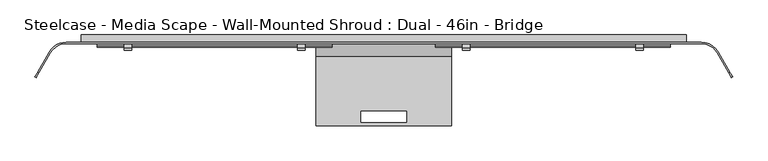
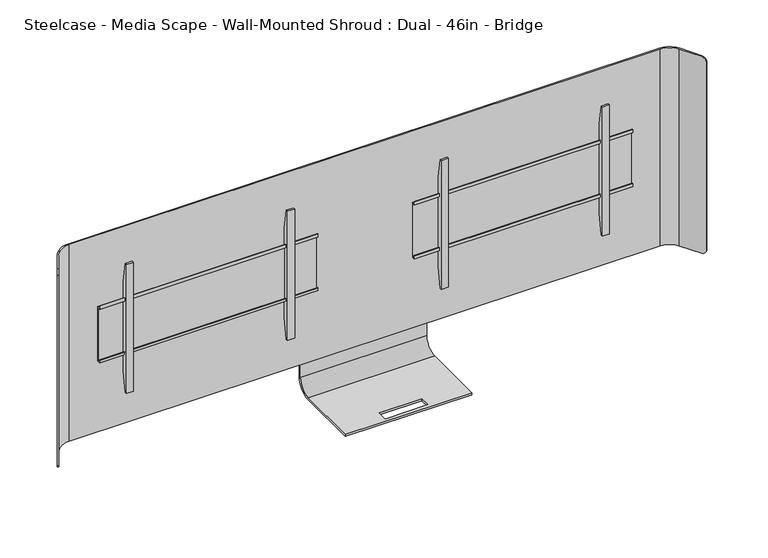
"""IFC4 building model written with IfcOpenShell, lengths in millimetres: furniture geometry, Steelcase - Media Scape - Wall-Mounted Shroud : Dual - 46in - Bridge."""

import ifcopenshell
import ifcopenshell.guid

model = None  # the IFC model being written
_history = None  # IfcOwnerHistory: only IFC2X3 demands one
_inside = {}  # id of a spatial element -> (the spatial element, [elements in it])
_under = {}  # id of a project, library or spatial element -> (it, [spatial elements below it])
_declared = {}  # id of a project -> (the project, [libraries it declares])
_typed = {}  # id of a type object -> (the type object, [elements of that type])
_made_of = {}  # id of a material, layer set ... -> (it, [elements and type objects made of it])


def new_model(schema):
    """Start an empty IFC model of exactly this schema.

    Asked for "IFC4X3", IfcOpenShell would pick the latest addendum, in which some entities
    have other attributes; the version numbers below select the first issue.
    IFC2X3 requires an IfcOwnerHistory on every rooted entity: one is made here for all.
    """
    global model, _history
    if schema == "IFC4X3":
        model = ifcopenshell.file(schema_version=(4, 3, 0, 0))
    else:
        model = ifcopenshell.file(schema=schema)
    _inside.clear()
    _under.clear()
    _declared.clear()
    _typed.clear()
    _made_of.clear()
    _history = None
    if model.schema == "IFC2X3":
        org = make("IfcOrganization", Name="unknown")
        user = make(
            "IfcPersonAndOrganization",
            ThePerson=make("IfcPerson", FamilyName="unknown"),
            TheOrganization=org,
        )
        app = make(
            "IfcApplication",
            ApplicationDeveloper=org,
            Version="unknown",
            ApplicationFullName="unknown",
            ApplicationIdentifier="unknown",
        )
        _history = make(
            "IfcOwnerHistory",
            OwningUser=user,
            OwningApplication=app,
            ChangeAction="ADDED",
            CreationDate=0,
        )
    return model


def make(cls, **values):
    """One entity of the class cls with the attributes given. An attribute that is None is left unset."""
    return model.create_entity(
        cls, **{name: value for name, value in values.items() if value is not None}
    )


def rooted(cls, **values):
    """An entity with a GlobalId (a new one), such as an element, a storey or a relation."""
    return make(cls, GlobalId=ifcopenshell.guid.new(), OwnerHistory=_history, **values)


def si_unit(unit_type, name, prefix=None):
    """IfcSIUnit, for example si_unit("LENGTHUNIT", "METRE", prefix="MILLI")."""
    return make("IfcSIUnit", UnitType=unit_type, Prefix=prefix, Name=name)


def assignment(units):
    """IfcUnitAssignment: the units of a project."""
    return None if units is None else make("IfcUnitAssignment", Units=units)


def point(xyz):
    """IfcCartesianPoint."""
    return None if xyz is None else make("IfcCartesianPoint", Coordinates=xyz)


def direction(xyz):
    """IfcDirection."""
    return None if xyz is None else make("IfcDirection", DirectionRatios=xyz)


def frame(location, z_axis=None, x_axis=None):
    """IfcAxis2Placement3D, a coordinate frame: its origin and axes. An axis left out is left unset."""
    return make(
        "IfcAxis2Placement3D",
        Location=point(location),
        Axis=direction(z_axis),
        RefDirection=direction(x_axis),
    )


def origin():
    """The frame at (0, 0, 0) with its axes left unset."""
    return frame((0.0, 0.0, 0.0))


def place(relative_to, where):
    """IfcLocalPlacement: puts the frame where relative to a parent placement (None: the world)."""
    return make(
        "IfcLocalPlacement", PlacementRelTo=relative_to, RelativePlacement=where
    )


def context(
    kind, dimensions, precision=None, world=None, true_north=None, identifier=None
):
    """IfcGeometricRepresentationContext, for example the 3D "Model" context."""
    return make(
        "IfcGeometricRepresentationContext",
        ContextIdentifier=identifier,
        ContextType=kind,
        CoordinateSpaceDimension=dimensions,
        Precision=precision,
        WorldCoordinateSystem=world,
        TrueNorth=true_north,
    )


def project(units=None, contexts=None):
    """IfcProject with its units and contexts."""
    return rooted(
        "IfcProject",
        Name="project",
        RepresentationContexts=contexts,
        UnitsInContext=assignment(units),
    )


def spatial(cls, under=None, at=None, **own):
    """A site, building, storey or space (cls), placed at a placement, below another one or the project."""
    s = rooted(cls, ObjectPlacement=at, **own)
    if under is not None:
        _under.setdefault(under.id(), (under, []))[1].append(s)
    return s


def polyline(points):
    """IfcPolyline through the points."""
    return make("IfcPolyline", Points=[point(p) for p in points])


def circle_curve(where, radius):
    """IfcCircle in the frame where."""
    return make("IfcCircle", Position=where, Radius=radius)


def outline(outer, holes=None, kind="AREA"):
    """IfcArbitraryClosedProfileDef: a profile drawn as a closed curve; with holes, ...WithVoids."""
    if holes is None:
        return make("IfcArbitraryClosedProfileDef", ProfileType=kind, OuterCurve=outer)
    return make(
        "IfcArbitraryProfileDefWithVoids",
        ProfileType=kind,
        OuterCurve=outer,
        InnerCurves=holes,
    )


def extrude(swept, where, along, depth):
    """IfcExtrudedAreaSolid: the profile swept, set in the frame where, extruded along a direction by depth."""
    return make(
        "IfcExtrudedAreaSolid",
        SweptArea=swept,
        Position=where,
        ExtrudedDirection=direction(along),
        Depth=depth,
    )


def shape(context_of_items, identifier, shape_type, items):
    """IfcShapeRepresentation: the items that make up one representation, for example the "Body"."""
    return make(
        "IfcShapeRepresentation",
        ContextOfItems=context_of_items,
        RepresentationIdentifier=identifier,
        RepresentationType=shape_type,
        Items=items,
    )


def source(mapping_origin, context_of_items, identifier, shape_type, items):
    """IfcRepresentationMap: a shape defined once, which mapped items show again and again."""
    return make(
        "IfcRepresentationMap",
        MappingOrigin=mapping_origin,
        MappedRepresentation=shape(context_of_items, identifier, shape_type, items),
    )


def transform(
    local_origin,
    x_axis=None,
    y_axis=None,
    z_axis=None,
    scale=None,
    scale2=None,
    scale3=None,
    uniform=True,
):
    """IfcCartesianTransformationOperator3D, or its non-uniform kind. x_axis, y_axis, z_axis: its Axis1, 2, 3."""
    if uniform:
        return make(
            "IfcCartesianTransformationOperator3D",
            Axis1=direction(x_axis),
            Axis2=direction(y_axis),
            LocalOrigin=point(local_origin),
            Scale=scale,
            Axis3=direction(z_axis),
        )
    return make(
        "IfcCartesianTransformationOperator3DnonUniform",
        Axis1=direction(x_axis),
        Axis2=direction(y_axis),
        LocalOrigin=point(local_origin),
        Scale=scale,
        Axis3=direction(z_axis),
        Scale2=scale2,
        Scale3=scale3,
    )


def mapped(mapping_source, mapping_target):
    """IfcMappedItem: shows the shape of a source again, moved by a transform."""
    return make(
        "IfcMappedItem", MappingSource=mapping_source, MappingTarget=mapping_target
    )


def made_of(thing, what):
    """Note that an element or type object is made of a material, layer set ...; save() writes the relation."""
    if what is not None:
        _made_of.setdefault(what.id(), (what, []))[1].append(thing)
    return thing


def element(
    cls,
    number,
    at=None,
    inside=None,
    cuts=None,
    type_object=None,
    material=None,
    context=None,
    identifier="Body",
    shape_type=None,
    held_by="IfcProductDefinitionShape",
    body=None,
    shapes=None,
    **own,
):
    """One element of the class cls, such as IfcWall. Its Tag is "e" and its number.

    at: its placement. inside: the storey or other place that contains it. cuts: it is an
    opening in that element (IfcRelVoidsElement). A single representation is given by context,
    identifier, shape_type and body (its items); several are given by shapes. held_by: the class
    of the entity that holds the representations. save() writes the other relations.
    """
    e = rooted(cls, Tag="e%d" % number, ObjectPlacement=at, **own)
    if body is not None:
        shapes = [shape(context, identifier, shape_type, body)]
    if shapes is not None:
        e.Representation = make(held_by, Representations=shapes)
    if inside is not None:
        _inside.setdefault(inside.id(), (inside, []))[1].append(e)
    if cuts is not None:
        rooted(
            "IfcRelVoidsElement", RelatingBuildingElement=cuts, RelatedOpeningElement=e
        )
    if type_object is not None:
        _typed.setdefault(type_object.id(), (type_object, []))[1].append(e)
    return made_of(e, material)


def aggregate(whole, parts):
    """IfcRelAggregates: a whole, such as a stair, and the parts it consists of."""
    return rooted("IfcRelAggregates", RelatingObject=whole, RelatedObjects=parts)


def save(model, path):
    """Write the relations noted so far, then the file.

    IfcRelAggregates (storeys below a building ...), IfcRelContainedInSpatialStructure (elements
    in a storey), IfcRelDefinesByType, IfcRelAssociatesMaterial and IfcRelDeclares: one each for
    every whole, place, type object, material and project.
    """
    for whole, parts in _under.values():
        aggregate(whole, parts)
    for where, things in _inside.values():
        rooted(
            "IfcRelContainedInSpatialStructure",
            RelatedElements=things,
            RelatingStructure=where,
        )
    for kind, things in _typed.values():
        rooted("IfcRelDefinesByType", RelatedObjects=things, RelatingType=kind)
    for what, things in _made_of.values():
        rooted("IfcRelAssociatesMaterial", RelatedObjects=things, RelatingMaterial=what)
    for by, libraries in _declared.values():
        rooted("IfcRelDeclares", RelatingContext=by, RelatedDefinitions=libraries)
    model.write(path)


def plane_surface(at):
    """IfcPlane: the flat surface through the origin of the frame at, square to its z axis."""
    return make("IfcPlane", Position=at)


def cylinder_surface(at, radius):
    """IfcCylindricalSurface: all points at the distance radius from the z axis of the frame at."""
    return make("IfcCylindricalSurface", Position=at, Radius=radius)


def revolved_surface(curve, axis_point, axis_direction):
    """IfcSurfaceOfRevolution: the curve turned about the line through axis_point along axis_direction."""
    return make(
        "IfcSurfaceOfRevolution",
        SweptCurve=make("IfcArbitraryOpenProfileDef", ProfileType="CURVE", Curve=curve),
        AxisPosition=make("IfcAxis1Placement", Location=point(axis_point), Axis=direction(axis_direction)),
    )


def advanced_brep(points, edges, surfaces, faces):
    """IfcAdvancedBrep: a solid bounded by faces that lie on surfaces and meet in shared edges.

    An edge is (start, end): straight between two places in points (the first is 0);
    or (start, end, curve); or (start, end, curve, False) where it runs against its curve.
    A face is (place in surfaces, loops), or (place, loops, False) where it looks against
    its surface's normal. A loop lists edges by number (the first is 1), with a minus sign
    where the edge is run from its end to its start. The first loop is the outer one.
    """
    corners = [point(p) for p in points]
    vertices = [make("IfcVertexPoint", VertexGeometry=c) for c in corners]
    made = []
    for start, end, *more in edges:
        made.append(
            make(
                "IfcEdgeCurve",
                EdgeStart=vertices[start],
                EdgeEnd=vertices[end],
                EdgeGeometry=more[0] if more else make("IfcPolyline", Points=[corners[start], corners[end]]),
                SameSense=more[1] if len(more) > 1 else True,
            )
        )
    hull = []
    for where, loops, *sense in faces:
        bounds = []
        for j, loop in enumerate(loops):
            ring = [make("IfcOrientedEdge", EdgeElement=made[abs(k) - 1], Orientation=k > 0) for k in loop]
            bounds.append(
                make(
                    "IfcFaceOuterBound" if j == 0 else "IfcFaceBound",
                    Bound=make("IfcEdgeLoop", EdgeList=ring),
                    Orientation=True,
                )
            )
        hull.append(make("IfcAdvancedFace", Bounds=bounds, FaceSurface=surfaces[where], SameSense=sense[0] if sense else True))
    return make("IfcAdvancedBrep", Outer=make("IfcClosedShell", CfsFaces=hull))


def steelcase_media_scape_wall_mounted_shroud_dual_46in_bridge_60c83677(model_context):
    return source(origin(), model_context, "Body", "SolidModel", [
        extrude(outline(polyline([(-42.4942785, 1326.5504726), (-42.4942785, 1338.5645649), (-39.8272175, 1338.5645649), (-39.8272175, 1329.217461), (-29.9720009, 1329.217461), (-29.9720009, 1114.8922438), (-42.3164551, 1114.8922438), (-42.3164551, 1125.8142515), (-39.649394, 1125.8142515), (-39.649394, 1117.557052), (-32.6531824, 1117.557052), (-32.6531824, 1326.5504726), (-42.4942785, 1326.5504726)])), frame((179.451, 0.0, 0.0), z_axis=(1.0, 0.0, 0.0), x_axis=(0.0, 1.0, 0.0)), (0.0, 0.0, 1.0), 812.8),
        extrude(outline(polyline([(-32.6531824, 1397.4971148), (-32.6531824, 1045.6825607), (-46.5049349, 968.0546949), (-53.3399828, 968.0546949), (-53.3399828, 1476.0547192), (-46.5050076, 1476.0547192), (-32.6531824, 1397.4971148)])), frame((273.052426, 0.0, 0.0), z_axis=(1.0, 0.0, 0.0), x_axis=(0.0, 1.0, 0.0)), (0.0, 0.0, 1.0), 26.1592872),
        extrude(outline(polyline([(-32.6531824, 1397.4971148), (-32.6531824, 1045.6825607), (-46.5049349, 968.0546949), (-53.3399828, 968.0546949), (-53.3399828, 1476.0547192), (-46.5050076, 1476.0547192), (-32.6531824, 1397.4971148)])), frame((872.4902868, 0.0, 0.0), z_axis=(1.0, 0.0, 0.0), x_axis=(0.0, 1.0, 0.0)), (0.0, 0.0, 1.0), 26.1592872),
        extrude(outline(polyline([(-42.4942785, 1326.5504726), (-42.4942785, 1338.5645649), (-39.8272175, 1338.5645649), (-39.8272175, 1329.217461), (-29.9720009, 1329.217461), (-29.9720009, 1114.8922438), (-42.3164551, 1114.8922438), (-42.3164551, 1125.8142515), (-39.649394, 1125.8142515), (-39.649394, 1117.557052), (-32.6531824, 1117.557052), (-32.6531824, 1326.5504726), (-42.4942785, 1326.5504726)])), frame((-992.251, 0.0, 0.0), z_axis=(1.0, 0.0, 0.0), x_axis=(0.0, 1.0, 0.0)), (0.0, 0.0, 1.0), 812.8),
        extrude(outline(polyline([(-32.6531824, 1397.4971148), (-32.6531824, 1045.6825607), (-46.5049349, 968.0546949), (-53.3399828, 968.0546949), (-53.3399828, 1476.0547192), (-46.5050076, 1476.0547192), (-32.6531824, 1397.4971148)])), frame((-299.2117132, 0.0, 0.0), z_axis=(1.0, 0.0, 0.0), x_axis=(0.0, 1.0, 0.0)), (0.0, 0.0, 1.0), 26.1592872),
        extrude(outline(polyline([(-32.6531824, 1397.4971148), (-32.6531824, 1045.6825607), (-46.5049349, 968.0546949), (-53.3399828, 968.0546949), (-53.3399828, 1476.0547192), (-46.5050076, 1476.0547192), (-32.6531824, 1397.4971148)])), frame((-898.649574, 0.0, 0.0), z_axis=(1.0, 0.0, 0.0), x_axis=(0.0, 1.0, 0.0)), (0.0, 0.0, 1.0), 26.1592872),
        advanced_brep(
        [(234.9499879, -25.4, 783.5646188), (234.9499879, -75.8697585, 733.0948603), (234.9499879, -314.3253876, 733.0948603), (234.9499879, -314.3253876, 725.1446188), (234.9499879, -75.8696132, 725.1446188), (234.9499879, -17.4496132, 783.5646188), (234.9499879, -17.4496132, 1126.7947876), (234.9499879, -25.4, 1126.7947876), (-234.9499879, -25.4, 783.5646188), (-234.9499879, -25.4, 1126.7947876), (-234.9499879, -17.4496132, 1126.7947876), (-234.9499879, -17.4496132, 783.5646188), (-234.9499879, -75.8696132, 725.1446188), (-234.9499879, -314.3253876, 725.1446188), (-234.9499879, -314.3253876, 733.0948603), (-234.9499879, -75.8697585, 733.0948603), (-79.502, -263.5253876, 733.0948603), (79.502, -263.5253876, 733.0948603), (79.502, -301.6253876, 733.0948603), (-79.502, -301.6253876, 733.0948603), (79.502, -263.5253876, 725.1446188), (-79.502, -263.5253876, 725.1446188), (-79.502, -301.6253876, 725.1446188), (79.502, -301.6253876, 725.1446188)],
        [
            (0, 1, circle_curve(frame((234.9499879, -75.8697585, 783.5646188), z_axis=(-1.0, 0.0, 0.0), x_axis=(0.0, 1.0, 0.0)), 50.4697585)),
            (1, 2),
            (2, 3),
            (3, 4),
            (4, 5, circle_curve(frame((234.9499879, -75.8696132, 783.5646188), z_axis=(1.0, 0.0, 0.0), x_axis=(0.0, 1.0, 0.0)), 58.42)),
            (5, 6),
            (6, 7),
            (7, 0),
            (8, 9),
            (9, 10),
            (10, 11),
            (11, 12, circle_curve(frame((-234.9499879, -75.8696132, 783.5646188), z_axis=(-1.0, 0.0, 0.0), x_axis=(0.0, 1.0, 0.0)), 58.42)),
            (12, 13),
            (13, 14),
            (14, 15),
            (15, 8, circle_curve(frame((-234.9499879, -75.8697585, 783.5646188), z_axis=(1.0, 0.0, 0.0), x_axis=(0.0, 1.0, 0.0)), 50.4697585)),
            (1, 15),
            (14, 2),
            (16, 17),
            (17, 18),
            (18, 19),
            (19, 16),
            (13, 3),
            (12, 4),
            (20, 21),
            (21, 22),
            (22, 23),
            (23, 20),
            (5, 11),
            (10, 6),
            (9, 7),
            (8, 0),
            (20, 17),
            (16, 21),
            (19, 22),
            (18, 23),
        ],
        [
            plane_surface(frame((234.9499879, -25.4, 783.5646188), z_axis=(1.0, 0.0, 0.0), x_axis=(0.0, 0.0, -1.0))),
            plane_surface(frame((-234.9499879, -25.4, 783.5646188), z_axis=(-1.0, 0.0, 0.0), x_axis=(0.0, 0.0, 1.0))),
            plane_surface(frame((234.9499879, -75.8697585, 733.0948603), z_axis=(0.0, 0.0, 1.0), x_axis=(-1.0, 0.0, 0.0))),
            plane_surface(frame((234.9499879, -314.3253876, 733.0948603), z_axis=(0.0, -1.0, 0.0), x_axis=(-1.0, 0.0, 0.0))),
            plane_surface(frame((234.9499879, -314.3253876, 725.1446188), z_axis=(0.0, 0.0, -1.0), x_axis=(-1.0, 0.0, 0.0))),
            plane_surface(frame((234.9499879, -17.4496132, 783.5646188), z_axis=(0.0, 1.0, 0.0), x_axis=(-1.0, 0.0, 0.0))),
            plane_surface(frame((234.9499879, -17.4496132, 1126.7947876), z_axis=(0.0, 0.0, 1.0), x_axis=(-1.0, 0.0, 0.0))),
            plane_surface(frame((234.9499879, -25.4, 1126.7947876), z_axis=(0.0, -1.0, 0.0), x_axis=(-1.0, 0.0, 0.0))),
            revolved_surface(polyline([(-234.9499879, -25.400000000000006, 783.5646188), (234.9499879, -25.400000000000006, 783.5646188)]), (-234.9499879, -75.8697585, 783.5646188), (-1.0, 0.0, 0.0)),
            cylinder_surface(frame((-234.9499879, -75.8696132, 783.5646188), z_axis=(1.0, 0.0, 0.0), x_axis=(0.0, 1.0, 0.0)), 58.42),
            plane_surface(frame((79.502, -263.5253876, 1824.7300588), z_axis=(0.0, -1.0, 0.0), x_axis=(0.0, 0.0, -1.0))),
            plane_surface(frame((-79.502, -263.5253876, 1824.7300588), z_axis=(1.0, 0.0, 0.0), x_axis=(0.0, 0.0, -1.0))),
            plane_surface(frame((-79.502, -301.6253876, 1824.7300588), z_axis=(0.0, 1.0, 0.0), x_axis=(0.0, 0.0, -1.0))),
            plane_surface(frame((79.502, -301.6253876, 1824.7300588), z_axis=(-1.0, 0.0, 0.0), x_axis=(0.0, 0.0, -1.0))),
        ],
        [
            (0, [[1, 2, 3, 4, 5, 6, 7, 8]]),
            (1, [[9, 10, 11, 12, 13, 14, 15, 16]]),
            (2, [[-2, 17, -15, 18], [19, 20, 21, 22]]),
            (3, [[-3, -18, -14, 23]]),
            (4, [[-4, -23, -13, 24], [25, 26, 27, 28]]),
            (5, [[-6, 29, -11, 30]]),
            (6, [[-7, -30, -10, 31]]),
            (7, [[-8, -31, -9, 32]]),
            (8, [[-1, -32, -16, -17]]),
            (9, [[-5, -24, -12, -29]]),
            (10, [[33, -19, 34, -25]]),
            (11, [[-34, -22, 35, -26]]),
            (12, [[-35, -21, 36, -27]]),
            (13, [[-33, -28, -36, -20]]),
        ],
    ),
        advanced_brep(
        [(-1154.5586135, -61.722, 1610.614), (-1099.566002, -29.9720009, 1610.614), (1099.566, -29.9720009, 1610.614), (1154.5586135, -61.722, 1610.614), (1194.679586, -131.2135628, 1610.614), (1198.6390541, -128.9275628, 1610.614), (1158.5180817, -59.436, 1610.614), (1099.566002, -25.4, 1610.614), (-1099.566, -25.4, 1610.614), (-1158.5180817, -59.436, 1610.614), (-1198.6421659, -128.9329524, 1610.614), (-1194.6826977, -131.2189524, 1610.614), (-1158.5180817, -59.436, 835.914), (-1099.566002, -25.4, 835.914), (1099.566, -25.4, 835.914), (1158.5180817, -59.436, 835.914), (1198.6906629, -129.0169518, 835.914), (1194.7311948, -131.3029518, 835.914), (1154.5586135, -61.722, 835.914), (1099.566002, -29.9720009, 835.914), (-1099.566, -29.9720009, 835.914), (-1154.5586135, -61.722, 835.914), (-1194.7454014, -131.3275584, 835.914), (-1198.7048695, -129.0415584, 835.914), (-1208.2090632, -145.5033047, 849.5242766), (-1208.2090632, -145.5033047, 1596.6227735), (-1204.2495951, -147.7893047, 1596.6227735), (-1204.2495951, -147.7893047, 849.5242766), (1204.2270866, -147.7503189, 849.4756893), (1204.2270866, -147.7503189, 1596.7433849), (1208.1865547, -145.4643189, 1596.7433849), (1208.1865547, -145.4643189, 849.4756893)],
        [
            (0, 1, circle_curve(frame((-1099.566002, -93.4719991, 1610.614), z_axis=(0.0, 0.0, -1.0), x_axis=(0.0, 1.0, 0.0)), 63.4999981)),
            (1, 2),
            (2, 3, circle_curve(frame((1099.566002, -93.4719991, 1610.614), z_axis=(0.0, 0.0, -1.0), x_axis=(0.0, 1.0, 0.0)), 63.4999981)),
            (3, 4),
            (4, 5),
            (5, 6),
            (6, 7, circle_curve(frame((1099.5660004, -93.472, 1610.614), z_axis=(0.0, 0.0, 1.0), x_axis=(0.0, 1.0, 0.0)), 68.072)),
            (7, 8),
            (8, 9, circle_curve(frame((-1099.5660004, -93.472, 1610.614), z_axis=(0.0, 0.0, 1.0), x_axis=(0.0, 1.0, 0.0)), 68.072)),
            (9, 10),
            (10, 11),
            (11, 0),
            (12, 13, circle_curve(frame((-1099.5660004, -93.472, 835.914), z_axis=(0.0, 0.0, -1.0), x_axis=(0.0, 1.0, 0.0)), 68.072)),
            (13, 14),
            (14, 15, circle_curve(frame((1099.5660004, -93.472, 835.914), z_axis=(0.0, 0.0, -1.0), x_axis=(0.0, 1.0, 0.0)), 68.072)),
            (15, 16),
            (16, 17),
            (17, 18),
            (18, 19, circle_curve(frame((1099.566002, -93.4719991, 835.914), z_axis=(0.0, 0.0, 1.0), x_axis=(0.0, 1.0, 0.0)), 63.4999981)),
            (19, 20),
            (20, 21, circle_curve(frame((-1099.566002, -93.4719991, 835.914), z_axis=(0.0, 0.0, 1.0), x_axis=(0.0, 1.0, 0.0)), 63.4999981)),
            (21, 22),
            (22, 23),
            (23, 12),
            (0, 21),
            (20, 1),
            (8, 13),
            (12, 9),
            (23, 24, circle_curve(frame((-1198.7048695, -129.0415584, 855.9928872), z_axis=(-0.8660254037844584, 0.49999999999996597, 0.0), x_axis=(-0.49999999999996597, -0.8660254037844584, 0.0)), 20.0788872)),
            (24, 25),
            (25, 10, circle_curve(frame((-1198.6421659, -128.9329524, 1590.5351128), z_axis=(-0.8660254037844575, 0.49999999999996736, 0.0), x_axis=(-0.49999999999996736, -0.8660254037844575, 0.0)), 20.0788872)),
            (26, 25),
            (24, 27),
            (27, 26),
            (11, 26, circle_curve(frame((-1194.6826977, -131.2189524, 1590.5351128), z_axis=(0.8660254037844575, -0.49999999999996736, 0.0), x_axis=(-0.49999999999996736, -0.8660254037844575, 0.0)), 20.0788872)),
            (27, 22, circle_curve(frame((-1194.7454014, -131.3275584, 855.9928872), z_axis=(0.8660254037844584, -0.49999999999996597, 0.0), x_axis=(-0.49999999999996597, -0.8660254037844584, 0.0)), 20.0788872)),
            (7, 14),
            (19, 2),
            (3, 18),
            (17, 28, circle_curve(frame((1194.7311948, -131.3029518, 855.9928872), z_axis=(-0.8660254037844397, -0.49999999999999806, 0.0), x_axis=(0.49999999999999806, -0.8660254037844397, 0.0)), 20.0788872)),
            (28, 29),
            (29, 4, circle_curve(frame((1194.679586, -131.2135628, 1590.5351128), z_axis=(-0.8660254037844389, -0.4999999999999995, 0.0), x_axis=(0.4999999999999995, -0.8660254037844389, 0.0)), 20.0788872)),
            (30, 29),
            (28, 31),
            (31, 30),
            (15, 6),
            (5, 30, circle_curve(frame((1198.6390541, -128.9275628, 1590.5351128), z_axis=(0.8660254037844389, 0.4999999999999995, 0.0), x_axis=(0.4999999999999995, -0.8660254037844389, 0.0)), 20.0788872)),
            (31, 16, circle_curve(frame((1198.6906629, -129.0169518, 855.9928872), z_axis=(0.8660254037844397, 0.49999999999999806, 0.0), x_axis=(0.49999999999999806, -0.8660254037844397, 0.0)), 20.0788872)),
        ],
        [
            plane_surface(frame((-1099.566002, -29.9720009, 1610.614), z_axis=(0.0, 0.0, 1.0), x_axis=(1.0, 0.0, 0.0))),
            plane_surface(frame((-1099.566002, -29.9720009, 835.914), z_axis=(0.0, 0.0, -1.0), x_axis=(-1.0, 0.0, 0.0))),
            revolved_surface(polyline([(-1099.566002, -29.972001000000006, 835.914), (-1099.566002, -29.972001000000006, 1610.614)]), (-1099.566002, -93.4719991, 835.914), (0.0, 0.0, -1.0)),
            cylinder_surface(frame((-1099.5660004, -93.472, 835.914), z_axis=(0.0, 0.0, 1.0), x_axis=(0.0, 1.0, 0.0)), 68.072),
            plane_surface(frame((-1158.5180817, -59.436, 1610.614), z_axis=(-0.8660254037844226, 0.5000000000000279, 0.0), x_axis=(0.0, 0.0, -1.0))),
            plane_surface(frame((-1208.2090632, -145.5033047, 1610.614), z_axis=(-0.5000000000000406, -0.8660254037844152, 0.0), x_axis=(0.0, 0.0, -1.0))),
            plane_surface(frame((-1204.2495951, -147.7893047, 1610.614), z_axis=(0.8660254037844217, -0.5000000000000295, 0.0), x_axis=(0.0, 0.0, -1.0))),
            plane_surface(frame((1099.566, -25.4, 1610.614), z_axis=(0.0, 1.0, 0.0), x_axis=(0.0, 0.0, -1.0))),
            plane_surface(frame((-1099.566, -29.9720009, 1610.614), z_axis=(0.0, -1.0, 0.0), x_axis=(0.0, 0.0, -1.0))),
            plane_surface(frame((1154.5586135, -61.722, 1610.614), z_axis=(-0.8660254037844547, -0.4999999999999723, 0.0), x_axis=(0.0, 0.0, -1.0))),
            plane_surface(frame((1204.2270866, -147.7503189, 1610.614), z_axis=(0.4999999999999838, -0.866025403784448, 0.0), x_axis=(0.0, 0.0, -1.0))),
            plane_surface(frame((1208.1865547, -145.4643189, 1610.614), z_axis=(0.8660254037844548, 0.49999999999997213, 0.0), x_axis=(0.0, 0.0, -1.0))),
            cylinder_surface(frame((1099.5660004, -93.472, 835.914), z_axis=(0.0, 0.0, 1.0), x_axis=(0.0, 1.0, 0.0)), 68.072),
            revolved_surface(polyline([(1099.566002, -29.972001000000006, 835.914), (1099.566002, -29.972001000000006, 1610.614)]), (1099.566002, -93.4719991, 835.914), (0.0, 0.0, -1.0)),
            cylinder_surface(frame((-1194.6826977, -131.2189524, 1590.5351128), z_axis=(0.8660254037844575, -0.49999999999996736, 0.0), x_axis=(-0.49999999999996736, -0.8660254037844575, 0.0)), 20.0788872),
            cylinder_surface(frame((-1194.7454014, -131.3275584, 855.9928872), z_axis=(0.8660254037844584, -0.49999999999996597, 0.0), x_axis=(-0.49999999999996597, -0.8660254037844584, 0.0)), 20.0788872),
            cylinder_surface(frame((1209.7864297, -122.4916225, 1590.5351128), z_axis=(0.8660254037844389, 0.4999999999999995, 0.0), x_axis=(0.4999999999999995, -0.8660254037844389, 0.0)), 20.0788872),
            cylinder_surface(frame((1206.9789695, -124.2316958, 855.9928872), z_axis=(0.8660254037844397, 0.49999999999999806, 0.0), x_axis=(0.49999999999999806, -0.8660254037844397, 0.0)), 20.0788872),
        ],
        [
            (0, [[1, 2, 3, 4, 5, 6, 7, 8, 9, 10, 11, 12]]),
            (1, [[13, 14, 15, 16, 17, 18, 19, 20, 21, 22, 23, 24]]),
            (2, [[-1, 25, -21, 26]]),
            (3, [[-9, 27, -13, 28]]),
            (4, [[-28, -24, 29, 30, 31, -10]]),
            (5, [[32, -30, 33, 34]]),
            (6, [[-25, -12, 35, -34, 36, -22]]),
            (7, [[-8, 37, -14, -27]]),
            (8, [[-2, -26, -20, 38]]),
            (9, [[39, -18, 40, 41, 42, -4]]),
            (10, [[43, -41, 44, 45]]),
            (11, [[46, -6, 47, -45, 48, -16]]),
            (12, [[-7, -46, -15, -37]]),
            (13, [[-3, -38, -19, -39]]),
            (14, [[-11, -31, -32, -35]]),
            (15, [[-23, -36, -33, -29]]),
            (16, [[-5, -42, -43, -47]]),
            (17, [[-17, -48, -44, -40]]),
        ],
    ),
        extrude(outline(polyline([(912.1648167, 984.2499879), (912.1648167, 1047.75), (1534.414, 1047.75), (1534.414, -1047.75), (912.1648167, -1047.75), (912.1648167, -985.2433465), (1470.9139516, -985.2433465), (1470.9139516, 984.2499879), (912.1648167, 984.2499879)])), frame((0.0, -25.4, 0.0), z_axis=(0.0, 1.0, 0.0), x_axis=(0.0, 0.0, 1.0)), (0.0, 0.0, 1.0), 25.4),
    ])


if __name__ == "__main__":
    model = new_model("IFC4")
    model_context = context("Model", 3, world=origin())
    ifc_project = project(units=[si_unit("LENGTHUNIT", "METRE", prefix="MILLI")], contexts=[model_context])
    site = spatial("IfcSite", under=ifc_project)
    building = spatial("IfcBuilding", under=site)
    placement = place(None, origin())
    steelcase_media_scape_wall_mounted_shroud_dual_46in_bridge_shape = steelcase_media_scape_wall_mounted_shroud_dual_46in_bridge_60c83677(model_context)
    element("IfcFurniture", 1, ObjectType="Steelcase - Media Scape - Wall-Mounted Shroud : Dual - 46in - Bridge", at=placement, inside=building, context=model_context, shape_type="MappedRepresentation", body=[
        mapped(steelcase_media_scape_wall_mounted_shroud_dual_46in_bridge_shape, transform((0.0, 0.0, 0.0), x_axis=(1.0, 0.0, 0.0), y_axis=(0.0, 1.0, 0.0), z_axis=(0.0, 0.0, 1.0))),
    ])
    save(model, "model.ifc")
